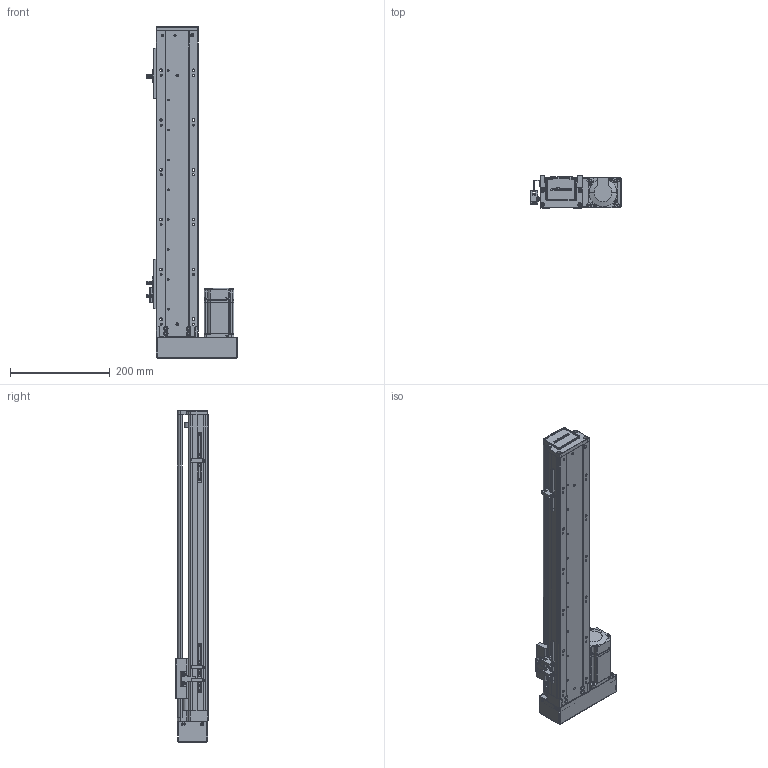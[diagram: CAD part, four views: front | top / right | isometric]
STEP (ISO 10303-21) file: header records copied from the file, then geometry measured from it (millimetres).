
FILE_DESCRIPTION (( 'STEP AP203' ), '1' );
FILE_NAME ('RY80-L1620-300-LK.SLDASM_450.step', '2021-02-20T07:16:48', ( '盈信电脑' ), ( '东莞市道滘镇水果街19号' ), 'SwSTEP 2.0', 'SolidWorks 2012', '' );
FILE_SCHEMA (( 'CONFIG_CONTROL_DESIGN' ));
Products named in the file (15): RY80俋离覜茼え; 滅袉蝶18-24; RY80-L1620-300-LK.SLDASM_450; RY80酘莞萇儂假蚾啣; RY80酘殏俋欶; 覜茼ん672; T倰羞; 1; RY80转接电机端支撑座; 侂狟200W萇儂; RY80綴裔啣; RY80-300蛌諉倰第奻裔啣-LK_450; RY80臏賑輸; 滅袉蝶18-10; RY80-300蛌諉倰第菁釱-LK_450
Assembly tree (17 placements, depth 3):
  RY80-L1620-300-LK.SLDASM_450
    RY80-300蛌諉倰第菁釱-LK_450
    RY80臏賑輸
    RY80-300蛌諉倰第奻裔啣-LK_450
    RY80綴裔啣
    滅袉蝶18-10
    RY80转接电机端支撑座
    侂狟200W萇儂
      1
    RY80酘莞萇儂假蚾啣
    RY80酘殏俋欶
    覜茼ん672  x3
    T倰羞  x2
    RY80俋离覜茼え
    滅袉蝶18-24
Bounding box: 181.7 x 65 x 667 mm (x, y, z)
Volume: 1432305.1 mm3; surface area: 552526.2 mm2
Topology: 16 solids, 16 shells, 2148 faces, 5907 edges, 3825 vertices
Faces by surface type: plane 1171, cylinder 777, cone 138, bspline 62
Entity records: 67967 total; most frequent: CARTESIAN_POINT 17203, ORIENTED_EDGE 10502, DIRECTION 9804, EDGE_CURVE 5251, VERTEX_POINT 3441, LINE 3272, VECTOR 3272, AXIS2_PLACEMENT_3D 3266
